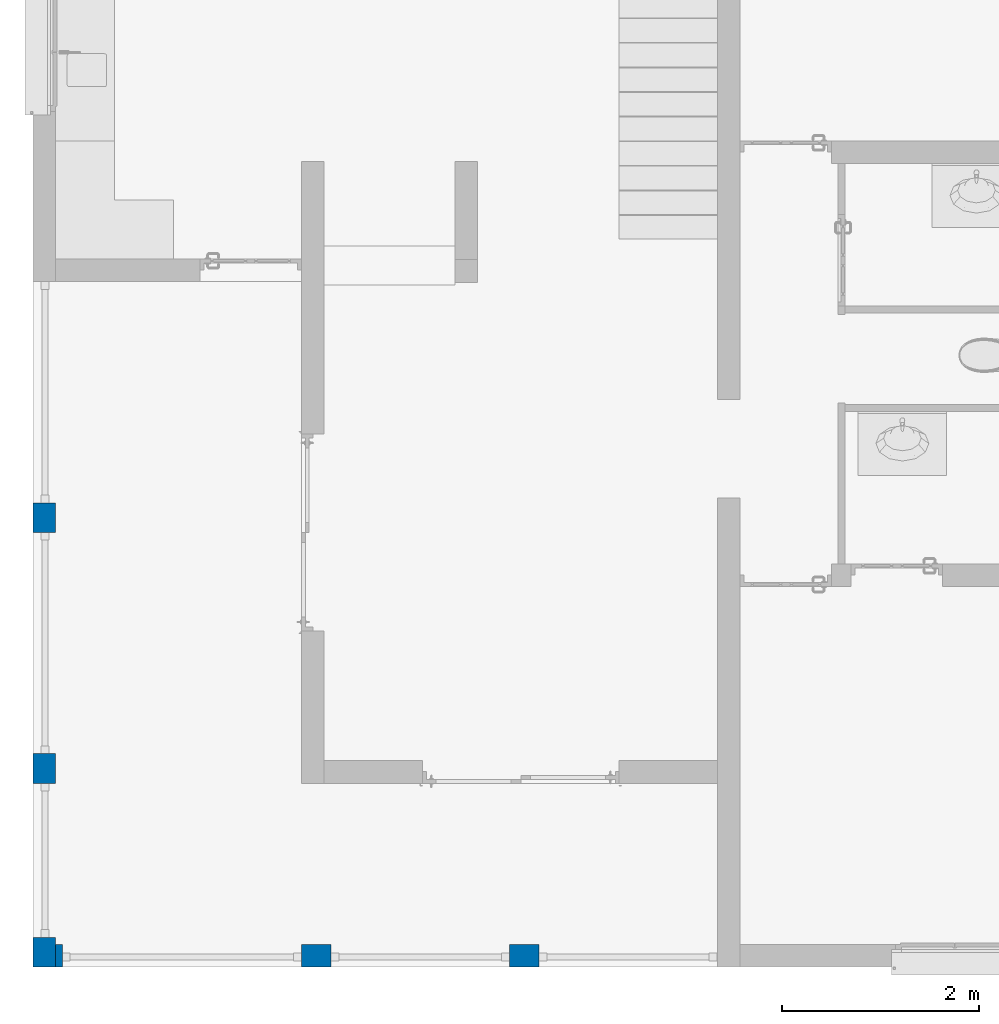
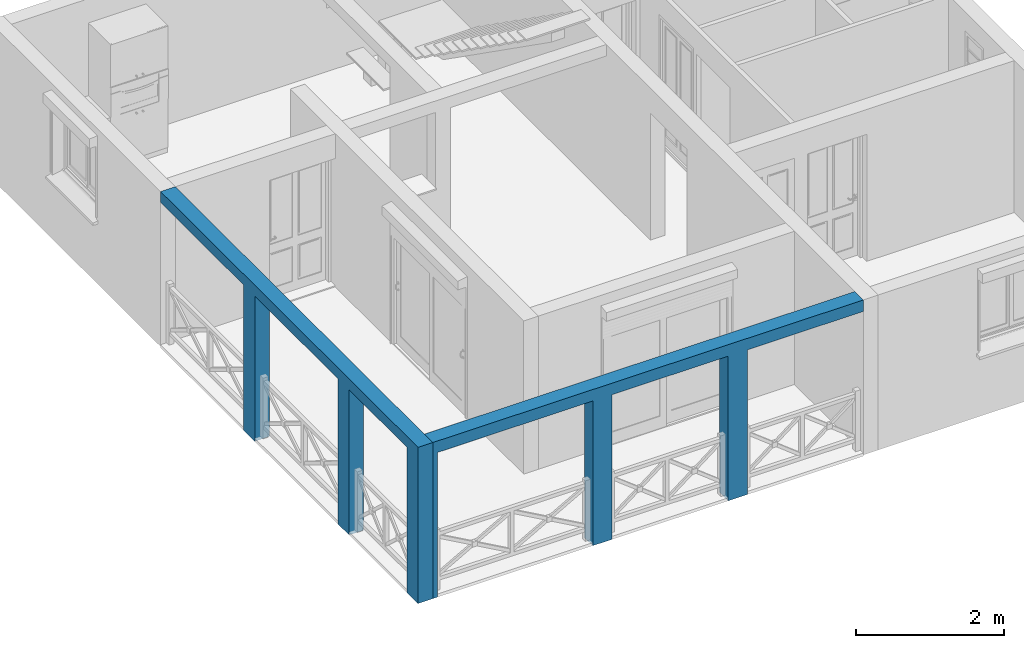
# One storey, part 7 of 17: 2 walls, 3 openings.
"""IFC2X3 building model written with IfcOpenShell, lengths in metres."""

from ifc_helpers import new_model, entity, si_unit, converted_unit, derived_unit, money_unit, direction, frame, origin_with_axes, origin_2d_with_axis, place, context, subcontext, project, spatial, polyline, rectangle, outline, extrude, boolean, faceted_brep, material, type_object, element, save


model = new_model("IFC2X3")

# Units and contexts
model_context = context("Model", 3, precision=1e-05, world=origin_with_axes(), true_north=direction((0.0, 1.0)))
body_context = subcontext(model_context, "Body", "Model", "MODEL_VIEW")
ifc_project = project(units=[si_unit("LENGTHUNIT", "METRE"), si_unit("AREAUNIT", "SQUARE_METRE"), si_unit("VOLUMEUNIT", "CUBIC_METRE"), converted_unit("PLANEANGLEUNIT", "DEGREE", entity("IfcPlaneAngleMeasure", 0.0174532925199), si_unit("PLANEANGLEUNIT", "RADIAN"), dimensions=[0, 0, 0, 0, 0, 0, 0]), si_unit("SOLIDANGLEUNIT", "STERADIAN"), money_unit("CHF"), converted_unit("TIMEUNIT", "Year", entity("IfcTimeMeasure", 31556926.0), si_unit("TIMEUNIT", "SECOND"), dimensions=[0, 0, 1, 0, 0, 0, 0]), si_unit("MASSUNIT", "GRAM", prefix="KILO"), si_unit("THERMODYNAMICTEMPERATUREUNIT", "DEGREE_CELSIUS"), si_unit("LUMINOUSINTENSITYUNIT", "LUMEN"), si_unit("ENERGYUNIT", "JOULE", prefix="MEGA"), derived_unit("THERMALCONDUCTANCEUNIT", [(si_unit("POWERUNIT", "WATT"), 1), (si_unit("LENGTHUNIT", "METRE"), -1), (si_unit("THERMODYNAMICTEMPERATUREUNIT", "KELVIN"), -1)]), derived_unit("SPECIFICHEATCAPACITYUNIT", [(si_unit("ENERGYUNIT", "JOULE"), 1), (si_unit("MASSUNIT", "GRAM", prefix="KILO"), -1), (si_unit("THERMODYNAMICTEMPERATUREUNIT", "KELVIN"), -1)]), derived_unit("MASSDENSITYUNIT", [(si_unit("MASSUNIT", "GRAM", prefix="KILO"), 1), (si_unit("VOLUMEUNIT", "CUBIC_METRE"), -1)])], contexts=[model_context])

# Site, building, storey
site_placement = place(None, origin_with_axes())
site = spatial("IfcSite", under=ifc_project, at=site_placement, Name="Site", CompositionType="ELEMENT")
building_placement = place(site_placement, origin_with_axes())
building = spatial("IfcBuilding", under=site, at=building_placement, Name="Bâtiment", CompositionType="ELEMENT")
storey_placement = place(building_placement, frame((0.0, 0.0, 3.0), z_axis=(0.0, 0.0, 1.0), x_axis=(1.0, 0.0, 0.0)))
storey = spatial("IfcBuildingStorey", under=building, at=storey_placement, Name="RDJ", CompositionType="ELEMENT", Elevation=3.0)

# Wall, openings
ifc_material = material(Name="Hachure solide 2628782308")
wall_type_1 = type_object("IfcWallType", Name="Hachure solide 2628782308 230", PredefinedType="NOTDEFINED")
wall_1_placement = place(storey_placement, frame((85.0135190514, 7.18034105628, -3.07), z_axis=(0.0, 0.0, 1.0), x_axis=(1.0, 0.0, 0.0)))
wall_1 = element("IfcWall", 1, at=wall_1_placement, inside=storey, type_object=wall_type_1, material=ifc_material, Name="MurExt-011", context=body_context, shape_type="CSG", body=[
    boolean("DIFFERENCE", boolean("DIFFERENCE", boolean("DIFFERENCE", extrude(outline(polyline([(0.0, 0.0), (6.73, 0.0), (6.73, 0.23), (0.0, 0.23), (0.0, 0.0)])), origin_with_axes(), (0.0, 0.0, 1.0), 2.58), faceted_brep([(0.07, 0.23, 0.0), (0.07, 0.23, 0.05), (2.5, 0.23, 0.05), (2.5, 0.23, 0.0), (0.07, 0.0, 0.0), (0.07, 0.0, 0.05), (2.5, 0.0, 0.05), (2.5, 0.0, 0.0)], [[[0, 1, 2, 3]], [[1, 0, 4, 5]], [[2, 1, 5, 6]], [[3, 2, 6, 7]], [[4, 0, 3, 7]], [[5, 4, 7, 6]]])), faceted_brep([(2.8, 0.23, 0.0), (2.8, 0.23, 0.05), (4.615, 0.23, 0.05), (4.615, 0.23, 0.0), (2.8, 0.0, 0.0), (2.8, 0.0, 0.05), (4.615, 0.0, 0.05), (4.615, 0.0, 0.0)], [[[0, 1, 2, 3]], [[1, 0, 4, 5]], [[2, 1, 5, 6]], [[3, 2, 6, 7]], [[4, 0, 3, 7]], [[5, 4, 7, 6]]])), faceted_brep([(4.915, 0.23, 0.0), (4.915, 0.23, 0.05), (6.73, 0.23, 0.05), (6.73, 0.23, 0.0), (4.915, 0.0, 0.0), (4.915, 0.0, 0.05), (6.73, 0.0, 0.05), (6.73, 0.0, 0.0)], [[[0, 1, 2, 3]], [[1, 0, 4, 5]], [[6, 2, 1, 5]], [[2, 6, 7, 3]], [[4, 0, 3, 7]], [[5, 4, 7, 6]]])),
])
opening_1_placement = place(wall_1_placement, frame((3.7075, 0.0, -0.01), z_axis=(0.0, 0.0, 1.0), x_axis=(1.0, 0.0, 0.0)))
element("IfcOpeningElement", 2, at=opening_1_placement, cuts=wall_1, Name="Por-052", context=body_context, shape_type="SweptSolid", body=[
    extrude(rectangle(XDim=1.815, YDim=2.4, at=origin_2d_with_axis()), frame((0.0, 0.23, 1.2), z_axis=(0.0, -1.0, 0.0), x_axis=(1.0, 0.0, 0.0)), (0.0, 0.0, 1.0), 0.69),
])
opening_2_placement = place(wall_1_placement, frame((5.8225, 0.0, -0.01), z_axis=(0.0, 0.0, 1.0), x_axis=(1.0, 0.0, 0.0)))
element("IfcOpeningElement", 3, at=opening_2_placement, cuts=wall_1, Name="Por-051", context=body_context, shape_type="SweptSolid", body=[
    extrude(rectangle(XDim=1.815, YDim=2.4, at=origin_2d_with_axis()), frame((0.0, 0.23, 1.2), z_axis=(0.0, 1.0, 0.0), x_axis=(-1.0, 0.0, 0.0)), (0.0, 0.0, -1.0), 0.69),
])
opening_3_placement = place(wall_1_placement, frame((1.285, 0.0, -0.01), z_axis=(0.0, 0.0, 1.0), x_axis=(1.0, 0.0, 0.0)))
element("IfcOpeningElement", 4, at=opening_3_placement, cuts=wall_1, Name="Por-052", context=body_context, shape_type="SweptSolid", body=[
    extrude(rectangle(XDim=2.43, YDim=2.4, at=origin_2d_with_axis()), frame((0.0, 0.23, 1.2), z_axis=(0.0, -1.0, 0.0), x_axis=(1.0, 0.0, 0.0)), (0.0, 0.0, 1.0), 0.69),
])

# Wall
wall_type_2 = type_object("IfcWallType", Name="Hachure solide 2628782308", PredefinedType="NOTDEFINED")
wall_2_placement = place(storey_placement, frame((0.0, 0.0, -3.0), z_axis=(0.0, 0.0, 1.0), x_axis=(1.0, 0.0, 0.0)))
element("IfcWall", 5, at=wall_2_placement, inside=storey, type_object=wall_type_2, material=ifc_material, Name="MurExt-010", context=body_context, shape_type="Brep", body=[
    faceted_brep([(84.7835190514, 7.48182323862, -0.07), (84.7835190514, 7.18034105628, -0.07), (84.7835190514, 7.18034105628, 2.51), (84.7835190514, 14.1503410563, 2.51), (84.7835190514, 14.1503410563, 2.33), (84.7835190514, 11.9007251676, 2.33), (84.7835190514, 11.9007251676, -0.07), (84.7835190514, 11.6007251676, -0.07), (84.7835190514, 11.6007251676, 2.33), (84.7835190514, 9.35110927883, 2.33), (84.7835190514, 9.35110927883, -0.07), (84.7835190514, 9.04926660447, -0.07), (84.7835190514, 9.04926660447, 2.33), (84.7835190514, 7.48182323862, 2.33), (85.0135190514, 7.48182323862, -0.07), (85.0135190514, 7.18034105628, -0.07), (85.0135190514, 7.18034105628, 2.51), (85.0135190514, 14.1503410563, 2.51), (84.9972837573, 14.1503410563, 2.33), (85.0135190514, 14.1503410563, 2.33), (85.0135190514, 11.9007251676, 2.33), (85.0135190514, 11.9007251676, -0.07), (85.0135190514, 11.6007251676, -0.07), (85.0135190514, 11.6007251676, 2.33), (85.0135190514, 9.35110927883, 2.33), (85.0135190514, 9.35110927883, -0.07), (85.0135190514, 9.04926660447, -0.07), (85.0135190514, 9.04926660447, 2.33), (85.0135190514, 7.48182323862, 2.33)], [[[0, 1, 2, 3, 4, 5, 6, 7, 8, 9, 10, 11, 12, 13]], [[1, 0, 14, 15]], [[1, 15, 16, 2]], [[3, 2, 16, 17]], [[4, 3, 17, 18]], [[5, 4, 18, 19, 20]], [[6, 5, 20, 21]], [[7, 6, 21, 22]], [[8, 7, 22, 23]], [[9, 8, 23, 24]], [[10, 9, 24, 25]], [[11, 10, 25, 26]], [[12, 11, 26, 27]], [[13, 12, 27, 28]], [[0, 13, 28, 14]], [[14, 28, 27, 26, 25, 24, 23, 22, 21, 20, 19, 17, 16, 15]], [[19, 18, 17]]]),
])

save(model, "model.ifc")
